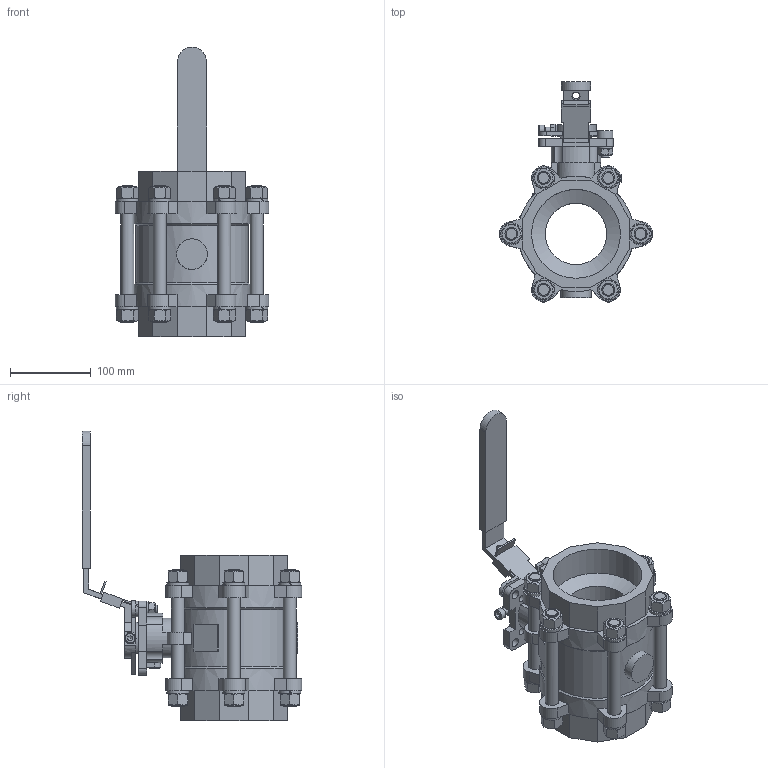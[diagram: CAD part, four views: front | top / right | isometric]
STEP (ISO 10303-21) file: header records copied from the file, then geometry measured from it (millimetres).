
FILE_DESCRIPTION(/* description */ ('Eriks item no: 13278907'),/* implementation_level */ '2;1');
FILE_NAME(/* name */ 'L:\DATA\ENG\Inventor\Econ 3D modellen\kogelkranen\7442\Rubens Versie\7442-DN100-RB.stp',/* time_stamp */ '2023-06-08T08:28:18+02:00',/* author */ ('roger.thijssen'),/* organization */ (''),/* preprocessor_version */ 'ST-DEVELOPER v18',/* originating_system */ 'Autodesk Inventor 2020',/* authorisation */ '');
FILE_SCHEMA (('CONFIG_CONTROL_DESIGN'));
Length unit declared in the file: millimetre
Products named in the file (1): Ball valve, 7442 - 4" - RB, (TF4103)
Bounding box: 189.89 x 272.12 x 359 mm (x, y, z)
Volume: 2432819.7 mm3; surface area: 334061.7 mm2
Topology: 1 solids, 1 shells, 775 faces, 2215 edges, 1448 vertices
Faces by surface type: plane 508, cylinder 168, cone 67, bspline 30, torus 2
Full cylindrical faces by diameter (mm): 8 x2, 9 x4, 10 x4, 11 x5, 12 x1, 13 x1, 16 x18, 17 x14, 19.2 x1, 38 x1, 47 x1, 55 x1, 76 x1, 110.072 x2, 139 x1, 143 x2
Entity records: 26048 total; most frequent: CARTESIAN_POINT 5656, ORIENTED_EDGE 4428, DIRECTION 4069, EDGE_CURVE 2214, VERTEX_POINT 1448, AXIS2_PLACEMENT_3D 1418, LINE 1233, VECTOR 1233
